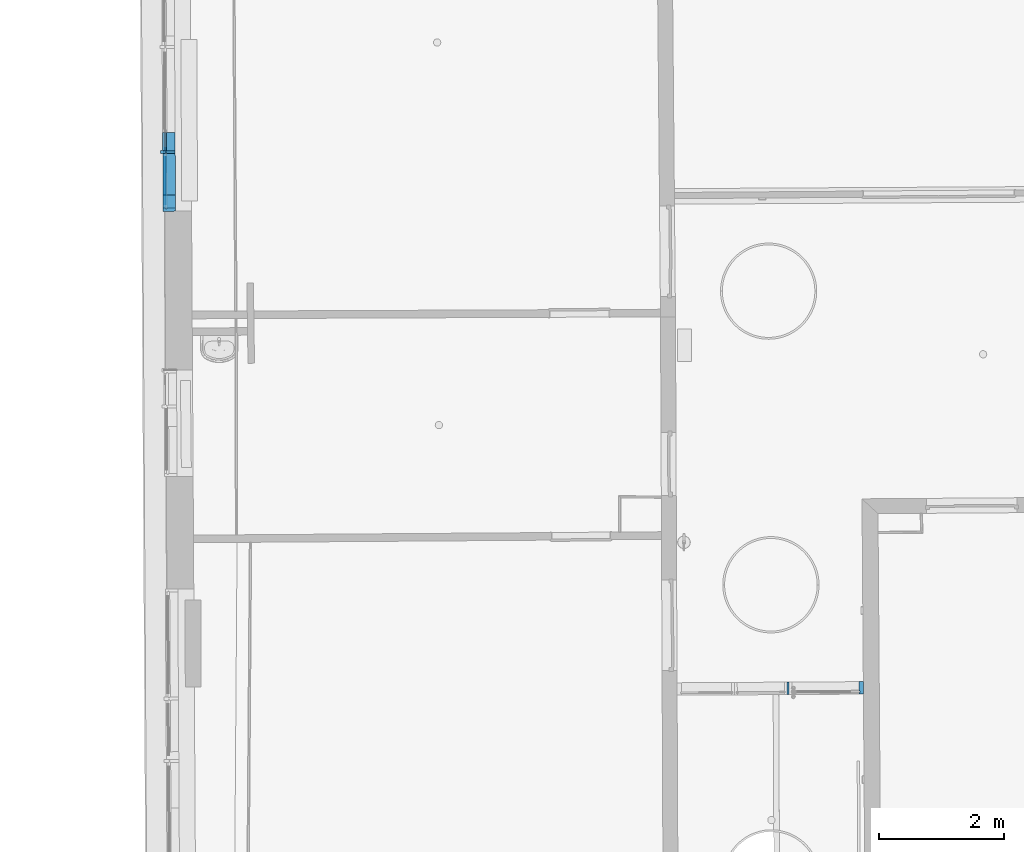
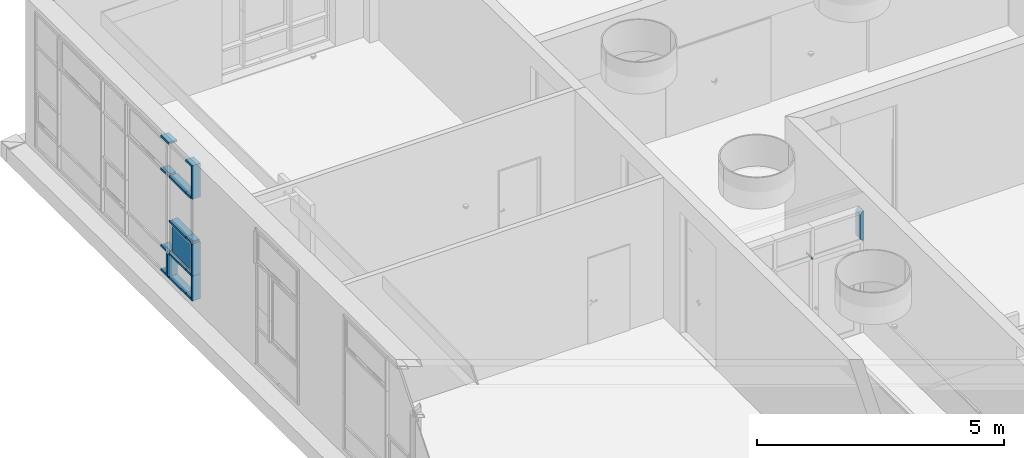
# One storey, part 124 of 158: 20 building element parts, 2 elements without a shape of their own.
"""IFC2X3 building model written with IfcOpenShell, lengths in metres."""

from ifc_helpers import new_model, entity, si_unit, converted_unit, derived_unit, money_unit, direction, frame, origin_with_axes, place, context, subcontext, project, spatial, faceted_brep, material, type_object, element, aggregate, save


model = new_model("IFC2X3")

# Units and contexts
model_context = context("Model", 3, precision=1e-05, world=origin_with_axes(), true_north=direction((0.0, 1.0)))
body_context = subcontext(model_context, "Body", "Model", "MODEL_VIEW")
ifc_project = project(units=[si_unit("LENGTHUNIT", "METRE"), si_unit("AREAUNIT", "SQUARE_METRE"), si_unit("VOLUMEUNIT", "CUBIC_METRE"), converted_unit("PLANEANGLEUNIT", "DEGREE", entity("IfcPlaneAngleMeasure", 0.0174532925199), si_unit("PLANEANGLEUNIT", "RADIAN"), dimensions=[0, 0, 0, 0, 0, 0, 0]), money_unit("EUR"), converted_unit("TIMEUNIT", "Year", entity("IfcTimeMeasure", 31556926.0), si_unit("TIMEUNIT", "SECOND"), dimensions=[0, 0, 1, 0, 0, 0, 0]), si_unit("MASSUNIT", "GRAM", prefix="KILO"), si_unit("THERMODYNAMICTEMPERATUREUNIT", "DEGREE_CELSIUS"), si_unit("LUMINOUSINTENSITYUNIT", "LUMEN"), si_unit("ENERGYUNIT", "JOULE", prefix="MEGA"), derived_unit("THERMALCONDUCTANCEUNIT", [(si_unit("POWERUNIT", "WATT"), 1), (si_unit("LENGTHUNIT", "METRE"), -1), (si_unit("THERMODYNAMICTEMPERATUREUNIT", "KELVIN"), -1)]), derived_unit("SPECIFICHEATCAPACITYUNIT", [(si_unit("ENERGYUNIT", "JOULE"), 1), (si_unit("MASSUNIT", "GRAM", prefix="KILO"), -1), (si_unit("THERMODYNAMICTEMPERATUREUNIT", "KELVIN"), -1)]), derived_unit("MASSDENSITYUNIT", [(si_unit("MASSUNIT", "GRAM", prefix="KILO"), 1), (si_unit("VOLUMEUNIT", "CUBIC_METRE"), -1)])], contexts=[model_context])

# Site, building, storey
site_placement = place(None, origin_with_axes())
site = spatial("IfcSite", under=ifc_project, at=site_placement, Name="Gelände", CompositionType="ELEMENT")
building_placement = place(site_placement, origin_with_axes())
building = spatial("IfcBuilding", under=site, at=building_placement, Name="Gebäude", CompositionType="ELEMENT")
storey_placement = place(building_placement, origin_with_axes())
storey = spatial("IfcBuildingStorey", under=building, at=storey_placement, Name="ERDGESCHOSS", CompositionType="ELEMENT", Elevation=0.0)

# Proxy, building element parts
building_element_proxy_type = type_object("IfcBuildingElementProxyType", Name="Fassadentyp", PredefinedType="NOTDEFINED")
proxy_1_placement = place(storey_placement, frame((-24.5086107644, 39.472840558, 1.345), z_axis=(0.0, 0.0, 1.0), x_axis=(1.0, 0.0, 0.0)))
proxy_1 = element("IfcBuildingElementProxy", 1, at=proxy_1_placement, inside=storey, type_object=building_element_proxy_type, Name="Fassade-002")
ifc_material_1 = material(Name="53_Metall, Aluminium")
building_element_part_1_placement = place(proxy_1_placement, origin_with_axes())
building_element_part_1 = element("IfcBuildingElementPart", 2, at=building_element_part_1_placement, material=ifc_material_1, Name="53_Metall, Aluminium", context=body_context, shape_type="Brep", body=[
    faceted_brep([(0.751821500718, -0.0053760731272, 2.95000001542), (0.73682178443, -0.00546832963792, 2.93500001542), (0.737006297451, -0.035467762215, 2.93500001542), (0.807004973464, -0.0350372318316, 3.00500001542), (0.805774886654, 0.164958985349, 3.00500001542), (0.735776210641, 0.164528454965, 2.93500001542), (0.736698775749, 0.0145312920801, 2.93500001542), (0.751698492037, 0.0146235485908, 2.95000001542), (0.751821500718, -0.0053760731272, 2.30003278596), (0.73682178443, -0.00546832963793, 2.31074707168), (0.737006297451, -0.035467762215, 2.31074707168), (0.807004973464, -0.0350372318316, 2.26074707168), (0.805774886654, 0.164958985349, 2.26074707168), (0.735776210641, 0.164528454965, 2.31074707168), (0.736698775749, 0.0145312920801, 2.31074707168), (0.751698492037, 0.0146235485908, 2.30003278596)], [[[0, 1, 2, 3, 4, 5, 6, 7]], [[0, 8, 9, 1]], [[9, 10, 2, 1]], [[10, 11, 3, 2]], [[11, 12, 4, 3]], [[12, 13, 5, 4]], [[6, 5, 13, 14]], [[14, 15, 7, 6]], [[7, 15, 8, 0]], [[8, 15, 14, 13, 12, 11, 10, 9]]]),
])
building_element_part_2_placement = place(proxy_1_placement, origin_with_axes())
building_element_part_2 = element("IfcBuildingElementPart", 3, at=building_element_part_2_placement, material=ifc_material_1, Name="53_Metall, Aluminium", context=body_context, shape_type="Brep", body=[
    faceted_brep([(-0.397632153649, -0.0124458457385, 2.22574707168), (-0.387132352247, -0.012381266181, 2.21074707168), (-0.386947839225, -0.0423806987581, 2.21074707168), (-0.421947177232, -0.0425959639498, 2.26074707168), (-0.423177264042, 0.157400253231, 2.26074707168), (-0.388177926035, 0.157615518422, 2.21074707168), (-0.387255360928, 0.00761835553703, 2.21074707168), (-0.39775516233, 0.00755377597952, 2.22574707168), (-0.384504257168, -0.0123651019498, 2.22574707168), (-0.384504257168, -0.0123651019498, 2.21074707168), (-0.384319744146, -0.0423645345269, 2.21074707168), (-0.384319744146, -0.0423645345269, 2.26074707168), (-0.421947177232, -0.0425959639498, 2.30255612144), (-0.422131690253, -0.0125965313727, 2.30255612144), (-0.422131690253, -0.0125965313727, 2.29574707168), (-0.422254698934, 0.00740309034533, 2.29574707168), (-0.422254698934, 0.00740309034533, 2.30255612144), (-0.423177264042, 0.157400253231, 2.30255612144), (-0.385549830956, 0.157631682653, 2.26074707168), (-0.385549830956, 0.157631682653, 2.21074707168), (-0.384627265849, 0.00763451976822, 2.21074707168), (-0.384627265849, 0.00763451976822, 2.22574707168), (-0.416126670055, 0.00744078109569, 2.29574707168), (-0.416003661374, -0.0125588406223, 2.29574707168)], [[[0, 1, 2, 3, 4, 5, 6, 7]], [[1, 0, 8, 9]], [[1, 9, 10, 2]], [[10, 11, 12, 3, 2]], [[3, 12, 13, 14, 15, 16, 17, 4]], [[4, 17, 18, 19, 5]], [[20, 6, 5, 19]], [[7, 6, 20, 21]], [[0, 7, 21, 8]], [[21, 20, 19, 18, 11, 10, 9, 8]], [[17, 16, 22, 23, 13, 12, 11, 18]], [[14, 13, 23]], [[14, 23, 22, 15]], [[22, 16, 15]]]),
])
aggregate(proxy_1, [building_element_part_1, building_element_part_2])

proxy_2_placement = place(storey_placement, frame((-34.889376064, 47.589579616, 1.34043902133), z_axis=(0.0, 0.0, 1.0), x_axis=(1.0, 0.0, 0.0)))
proxy_2 = element("IfcBuildingElementProxy", 4, at=proxy_2_placement, inside=storey, type_object=building_element_proxy_type, Name="Fassade-002")
ifc_material_2 = material(Name="45_Glas, Normalglas")
building_element_part_3_placement = place(proxy_2_placement, origin_with_axes())
building_element_part_3 = element("IfcBuildingElementPart", 5, at=building_element_part_3_placement, material=ifc_material_2, Name="45_Glas, Normalglas", context=body_context, shape_type="Brep", body=[
    faceted_brep([(-0.0226830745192, 0.457427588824, 0.710000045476), (-0.00668334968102, 0.457521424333, 0.710000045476), (-0.0022934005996, -0.291000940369, 0.710000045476), (-0.0182931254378, -0.291094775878, 0.710000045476), (-0.0226830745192, 0.457427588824, 1.33000004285), (-0.00668334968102, 0.457521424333, 1.33000004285), (-0.0022934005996, -0.291000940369, 1.33000004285), (-0.0182931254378, -0.291094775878, 1.33000004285)], [[[0, 1, 2, 3]], [[4, 5, 1, 0]], [[1, 5, 6, 2]], [[3, 2, 6, 7]], [[0, 3, 7, 4]], [[7, 6, 5, 4]]]),
])
building_element_part_4_placement = place(proxy_2_placement, origin_with_axes())
building_element_part_4 = element("IfcBuildingElementPart", 6, at=building_element_part_4_placement, material=ifc_material_1, Name="53_Metall, Aluminium", context=body_context, shape_type="Brep", body=[
    faceted_brep([(0.0121755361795, -0.370917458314, 0.620000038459), (-0.00782411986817, -0.371034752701, 0.620000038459), (-0.00791209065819, -0.356035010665, 0.620000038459), (-0.0479114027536, -0.356269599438, 0.620000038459), (-0.0476181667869, -0.406268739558, 0.620000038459), (0.15237839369, -0.405095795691, 0.620000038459), (0.152085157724, -0.355096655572, 0.620000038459), (0.0120875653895, -0.355917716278, 0.620000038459), (0.0121755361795, -0.370917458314, 0.035), (-0.00782411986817, -0.371034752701, 0.035), (-0.00791209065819, -0.356035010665, 0.05), (-0.0479114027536, -0.356269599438, 0.05), (-0.0476181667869, -0.406268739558, 0.0), (0.15237839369, -0.405095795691, 0.0), (0.152085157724, -0.355096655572, 0.05), (0.0120875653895, -0.355917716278, 0.05)], [[[0, 1, 2, 3, 4, 5, 6, 7]], [[1, 0, 8, 9]], [[10, 2, 1, 9]], [[2, 10, 11, 3]], [[4, 3, 11, 12]], [[5, 4, 12, 13]], [[6, 5, 13, 14]], [[15, 7, 6, 14]], [[0, 7, 15, 8]], [[8, 15, 14, 13, 12, 11, 10, 9]]]),
])
building_element_part_5_placement = place(proxy_2_placement, origin_with_axes())
building_element_part_5 = element("IfcBuildingElementPart", 7, at=building_element_part_5_placement, material=ifc_material_1, Name="53_Metall, Aluminium", context=body_context, shape_type="Brep", body=[
    faceted_brep([(0.0121755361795, -0.370917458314, 0.035), (-0.00782411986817, -0.371034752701, 0.035), (-0.00791209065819, -0.356035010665, 0.05), (-0.0479114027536, -0.356269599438, 0.05), (-0.0476181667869, -0.406268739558, 0.0), (0.15237839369, -0.405095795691, 0.0), (0.152085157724, -0.355096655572, 0.05), (0.0120875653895, -0.355917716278, 0.05), (0.010830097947, -0.141509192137, 0.035), (-0.00916955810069, -0.141626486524, 0.035), (-0.00916955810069, -0.141626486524, 0.05), (-0.0491688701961, -0.141861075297, 0.05), (-0.0491688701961, -0.141861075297, 0.0), (0.150827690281, -0.140688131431, 0.0), (0.150827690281, -0.140688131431, 0.05), (0.010830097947, -0.141509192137, 0.05)], [[[0, 1, 2, 3, 4, 5, 6, 7]], [[1, 0, 8, 9]], [[10, 2, 1, 9]], [[2, 10, 11, 3]], [[12, 4, 3, 11]], [[13, 5, 4, 12]], [[14, 6, 5, 13]], [[15, 7, 6, 14]], [[0, 7, 15, 8]], [[8, 15, 14, 13, 12, 11, 10, 9]]]),
])
building_element_part_6_placement = place(proxy_2_placement, origin_with_axes())
building_element_part_6 = element("IfcBuildingElementPart", 8, at=building_element_part_6_placement, material=ifc_material_1, Name="53_Metall, Aluminium", context=body_context, shape_type="Brep", body=[
    faceted_brep([(0.010830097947, -0.141509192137, 0.035), (-0.00916955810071, -0.141626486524, 0.035), (-0.00916955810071, -0.141626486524, 0.05), (-0.0491688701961, -0.141861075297, 0.05), (-0.0491688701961, -0.141861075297, 0.0), (0.150827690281, -0.140688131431, 0.0), (0.150827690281, -0.140688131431, 0.05), (0.010830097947, -0.141509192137, 0.05), (0.00678858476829, 0.547601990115, 0.035), (-0.0132110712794, 0.547484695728, 0.035), (-0.0132110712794, 0.547484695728, 0.05), (-0.0532103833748, 0.547250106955, 0.05), (-0.0532103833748, 0.547250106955, 0.0), (0.146786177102, 0.548423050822, 0.0), (0.146786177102, 0.548423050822, 0.05), (0.00678858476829, 0.547601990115, 0.05)], [[[0, 1, 2, 3, 4, 5, 6, 7]], [[1, 0, 8, 9]], [[10, 2, 1, 9]], [[2, 10, 11, 3]], [[12, 4, 3, 11]], [[13, 5, 4, 12]], [[14, 6, 5, 13]], [[15, 7, 6, 14]], [[0, 7, 15, 8]], [[8, 15, 14, 13, 12, 11, 10, 9]]]),
])
building_element_part_7_placement = place(proxy_2_placement, origin_with_axes())
building_element_part_7 = element("IfcBuildingElementPart", 9, at=building_element_part_7_placement, material=ifc_material_1, Name="53_Metall, Aluminium", context=body_context, shape_type="Brep", body=[
    faceted_brep([(0.00678858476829, 0.547601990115, 0.035), (-0.0132110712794, 0.547484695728, 0.035), (-0.0132110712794, 0.547484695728, 0.05), (-0.0532103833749, 0.547250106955, 0.05), (-0.0532103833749, 0.547250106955, 0.0), (0.146786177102, 0.548423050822, 0.0), (0.146786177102, 0.548423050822, 0.05), (0.00678858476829, 0.547601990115, 0.05), (0.00496537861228, 0.858473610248, 0.035), (-0.0150342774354, 0.858356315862, 0.035), (-0.0150342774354, 0.858356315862, 0.05), (-0.0550335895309, 0.858121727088, 0.05), (-0.0550335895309, 0.858121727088, 0.0), (0.144962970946, 0.859294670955, 0.0), (0.144962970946, 0.859294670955, 0.05), (0.00496537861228, 0.858473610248, 0.05)], [[[0, 1, 2, 3, 4, 5, 6, 7]], [[1, 0, 8, 9]], [[10, 2, 1, 9]], [[2, 10, 11, 3]], [[12, 4, 3, 11]], [[13, 5, 4, 12]], [[14, 6, 5, 13]], [[15, 7, 6, 14]], [[0, 7, 15, 8]], [[8, 15, 14, 13, 12, 11, 10, 9]]]),
])
building_element_part_8_placement = place(proxy_2_placement, origin_with_axes())
building_element_part_8 = element("IfcBuildingElementPart", 10, at=building_element_part_8_placement, material=ifc_material_1, Name="53_Metall, Aluminium", context=body_context, shape_type="Brep", body=[
    faceted_brep([(0.0066419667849, 0.572601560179, 2.51000003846), (0.0066419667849, 0.572601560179, 2.49500003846), (0.146639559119, 0.573422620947, 2.49500003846), (0.146639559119, 0.573422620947, 2.54500003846), (0.0066419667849, 0.572601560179, 2.54500003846), (0.0066419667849, 0.572601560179, 2.53000003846), (-0.0133576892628, 0.572484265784, 2.53000003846), (-0.0133576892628, 0.572484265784, 2.54500003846), (-0.0533570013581, 0.572249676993, 2.54500003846), (-0.0533570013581, 0.572249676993, 2.49500003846), (-0.0133576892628, 0.572484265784, 2.49500003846), (-0.0133576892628, 0.572484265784, 2.51000003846), (0.00496537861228, 0.858473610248, 2.51000003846), (0.00496537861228, 0.858473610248, 2.49500003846), (0.144962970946, 0.859294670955, 2.49500003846), (0.144962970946, 0.859294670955, 2.54500003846), (0.00496537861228, 0.858473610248, 2.54500003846), (0.00496537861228, 0.858473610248, 2.53000003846), (-0.0150342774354, 0.858356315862, 2.53000003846), (-0.0150342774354, 0.858356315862, 2.54500003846), (-0.0550335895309, 0.858121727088, 2.54500003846), (-0.0550335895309, 0.858121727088, 2.49500003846), (-0.0150342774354, 0.858356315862, 2.49500003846), (-0.0150342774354, 0.858356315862, 2.51000003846)], [[[0, 1, 2, 3, 4, 5, 6, 7, 8, 9, 10, 11]], [[1, 0, 12, 13]], [[1, 13, 14, 2]], [[3, 2, 14, 15]], [[4, 3, 15, 16]], [[4, 16, 17, 5]], [[5, 17, 18, 6]], [[7, 6, 18, 19]], [[19, 20, 8, 7]], [[9, 8, 20, 21]], [[22, 10, 9, 21]], [[11, 10, 22, 23]], [[0, 11, 23, 12]], [[23, 22, 21, 20, 19, 18, 17, 16, 15, 14, 13, 12]]]),
])
building_element_part_9_placement = place(proxy_2_placement, origin_with_axes())
building_element_part_9 = element("IfcBuildingElementPart", 11, at=building_element_part_9_placement, material=ifc_material_1, Name="53_Metall, Aluminium", context=body_context, shape_type="Brep", body=[
    faceted_brep([(0.010830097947, -0.141509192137, 0.610000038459), (0.010830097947, -0.141509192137, 0.595000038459), (0.150827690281, -0.140688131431, 0.595000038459), (0.150827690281, -0.140688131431, 0.645000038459), (0.010830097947, -0.141509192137, 0.645000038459), (0.010830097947, -0.141509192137, 0.630000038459), (-0.00916955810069, -0.141626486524, 0.630000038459), (-0.00916955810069, -0.141626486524, 0.645000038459), (-0.0491688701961, -0.141861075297, 0.645000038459), (-0.0491688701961, -0.141861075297, 0.595000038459), (-0.00916955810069, -0.141626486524, 0.595000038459), (-0.00916955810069, -0.141626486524, 0.610000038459), (0.00693520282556, 0.522602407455, 0.610000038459), (0.00693520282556, 0.522602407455, 0.595000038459), (0.146932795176, 0.523423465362, 0.595000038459), (0.146932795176, 0.523423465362, 0.645000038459), (0.00693520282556, 0.522602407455, 0.645000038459), (0.00693520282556, 0.522602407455, 0.630000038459), (-0.0130644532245, 0.522485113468, 0.630000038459), (-0.0130644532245, 0.522485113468, 0.645000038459), (-0.0530637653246, 0.522250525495, 0.645000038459), (-0.0530637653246, 0.522250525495, 0.595000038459), (-0.0130644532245, 0.522485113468, 0.595000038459), (-0.0130644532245, 0.522485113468, 0.610000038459)], [[[0, 1, 2, 3, 4, 5, 6, 7, 8, 9, 10, 11]], [[1, 0, 12, 13]], [[1, 13, 14, 2]], [[2, 14, 15, 3]], [[4, 3, 15, 16]], [[4, 16, 17, 5]], [[5, 17, 18, 6]], [[7, 6, 18, 19]], [[19, 20, 8, 7]], [[8, 20, 21, 9]], [[22, 10, 9, 21]], [[11, 10, 22, 23]], [[0, 11, 23, 12]], [[23, 22, 21, 20, 19, 18, 17, 16, 15, 14, 13, 12]]]),
])
building_element_part_10_placement = place(proxy_2_placement, origin_with_axes())
building_element_part_10 = element("IfcBuildingElementPart", 12, at=building_element_part_10_placement, material=ifc_material_1, Name="53_Metall, Aluminium", context=body_context, shape_type="Brep", body=[
    faceted_brep([(0.00684723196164, 0.537602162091, 0.620000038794), (0.00693520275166, 0.522602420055, 0.620000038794), (0.146932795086, 0.523423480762, 0.620000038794), (0.146639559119, 0.573422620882, 0.620000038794), (0.00664196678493, 0.572601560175, 0.620000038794), (0.00672993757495, 0.557601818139, 0.620000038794), (-0.0132697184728, 0.557484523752, 0.620000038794), (-0.0133576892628, 0.572484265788, 0.620000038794), (-0.0883563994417, 0.572044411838, 0.620000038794), (-0.088063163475, 0.522045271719, 0.620000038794), (-0.0130644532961, 0.522485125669, 0.620000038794), (-0.0131524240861, 0.537484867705, 0.620000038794), (0.00684723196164, 0.537602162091, 0.0500000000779), (0.00693520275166, 0.522602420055, 0.0500000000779), (0.146932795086, 0.523423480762, 0.0500000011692), (0.146639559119, 0.573422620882, 0.0500000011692), (0.00664196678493, 0.572601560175, 0.0500000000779), (0.00672993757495, 0.557601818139, 0.0500000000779), (-0.0132697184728, 0.557484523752, 0.0499999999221), (-0.0133576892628, 0.572484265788, 0.0499999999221), (-0.0883563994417, 0.572044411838, 0.0499999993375), (-0.088063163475, 0.522045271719, 0.0499999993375), (-0.0130644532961, 0.522485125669, 0.0499999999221), (-0.0131524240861, 0.537484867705, 0.0499999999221)], [[[0, 1, 2, 3, 4, 5, 6, 7, 8, 9, 10, 11]], [[1, 0, 12, 13]], [[1, 13, 14, 2]], [[2, 14, 15, 3]], [[4, 3, 15, 16]], [[4, 16, 17, 5]], [[5, 17, 18, 6]], [[7, 6, 18, 19]], [[19, 20, 8, 7]], [[8, 20, 21, 9]], [[22, 10, 9, 21]], [[11, 10, 22, 23]], [[0, 11, 23, 12]], [[23, 22, 21, 20, 19, 18, 17, 16, 15, 14, 13, 12]]]),
])
building_element_part_11_placement = place(proxy_2_placement, origin_with_axes())
building_element_part_11 = element("IfcBuildingElementPart", 13, at=building_element_part_11_placement, material=ifc_material_1, Name="53_Metall, Aluminium", context=body_context, shape_type="Brep", body=[
    faceted_brep([(0.0120875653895, -0.355917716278, 0.610000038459), (0.0120875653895, -0.355917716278, 0.595000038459), (0.152085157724, -0.355096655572, 0.595000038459), (0.152085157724, -0.355096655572, 0.645000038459), (0.0120875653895, -0.355917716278, 0.645000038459), (0.0120875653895, -0.355917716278, 0.630000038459), (-0.00791209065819, -0.356035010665, 0.630000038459), (-0.00791209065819, -0.356035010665, 0.645000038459), (-0.0479114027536, -0.356269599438, 0.645000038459), (-0.0479114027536, -0.356269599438, 0.595000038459), (-0.00791209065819, -0.356035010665, 0.595000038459), (-0.00791209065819, -0.356035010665, 0.610000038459), (0.010830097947, -0.141509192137, 0.610000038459), (0.010830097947, -0.141509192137, 0.595000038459), (0.150827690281, -0.140688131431, 0.595000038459), (0.150827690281, -0.140688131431, 0.645000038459), (0.010830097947, -0.141509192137, 0.645000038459), (0.010830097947, -0.141509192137, 0.630000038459), (-0.00916955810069, -0.141626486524, 0.630000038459), (-0.00916955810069, -0.141626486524, 0.645000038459), (-0.0491688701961, -0.141861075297, 0.645000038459), (-0.0491688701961, -0.141861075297, 0.595000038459), (-0.00916955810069, -0.141626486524, 0.595000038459), (-0.00916955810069, -0.141626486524, 0.610000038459)], [[[0, 1, 2, 3, 4, 5, 6, 7, 8, 9, 10, 11]], [[1, 0, 12, 13]], [[1, 13, 14, 2]], [[3, 2, 14, 15]], [[4, 3, 15, 16]], [[4, 16, 17, 5]], [[5, 17, 18, 6]], [[7, 6, 18, 19]], [[19, 20, 8, 7]], [[9, 8, 20, 21]], [[22, 10, 9, 21]], [[11, 10, 22, 23]], [[0, 11, 23, 12]], [[23, 22, 21, 20, 19, 18, 17, 16, 15, 14, 13, 12]]]),
])
building_element_part_12_placement = place(proxy_2_placement, origin_with_axes())
building_element_part_12 = element("IfcBuildingElementPart", 14, at=building_element_part_12_placement, material=ifc_material_1, Name="53_Metall, Aluminium", context=body_context, shape_type="Brep", body=[
    faceted_brep([(0.0121755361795, -0.370917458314, 1.42000003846), (-0.00782411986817, -0.371034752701, 1.42000003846), (-0.00791209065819, -0.356035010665, 1.42000003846), (-0.0479114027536, -0.356269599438, 1.42000003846), (-0.0476181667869, -0.406268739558, 1.42000003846), (0.15237839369, -0.405095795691, 1.42000003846), (0.152085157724, -0.355096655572, 1.42000003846), (0.0120875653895, -0.355917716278, 1.42000003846), (0.0121755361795, -0.370917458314, 0.620000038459), (-0.00782411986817, -0.371034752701, 0.620000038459), (-0.00791209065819, -0.356035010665, 0.620000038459), (-0.0479114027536, -0.356269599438, 0.620000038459), (-0.0476181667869, -0.406268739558, 0.620000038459), (0.15237839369, -0.405095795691, 0.620000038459), (0.152085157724, -0.355096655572, 0.620000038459), (0.0120875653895, -0.355917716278, 0.620000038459)], [[[0, 1, 2, 3, 4, 5, 6, 7]], [[1, 0, 8, 9]], [[10, 2, 1, 9]], [[2, 10, 11, 3]], [[12, 4, 3, 11]], [[13, 5, 4, 12]], [[14, 6, 5, 13]], [[15, 7, 6, 14]], [[0, 7, 15, 8]], [[8, 15, 14, 13, 12, 11, 10, 9]]]),
])
building_element_part_13_placement = place(proxy_2_placement, origin_with_axes())
building_element_part_13 = element("IfcBuildingElementPart", 15, at=building_element_part_13_placement, material=ifc_material_1, Name="53_Metall, Aluminium", context=body_context, shape_type="Brep", body=[
    faceted_brep([(0.00678858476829, 0.547601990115, 3.31499990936), (0.00678858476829, 0.547601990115, 3.29999990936), (0.146786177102, 0.548423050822, 3.29999990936), (0.146786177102, 0.548423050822, 3.34999990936), (-0.0532103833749, 0.547250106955, 3.34999990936), (-0.0532103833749, 0.547250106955, 3.29999990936), (-0.0132110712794, 0.547484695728, 3.29999990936), (-0.0132110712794, 0.547484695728, 3.31499990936), (0.00496537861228, 0.858473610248, 3.31499990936), (0.00496537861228, 0.858473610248, 3.29999990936), (0.144962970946, 0.859294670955, 3.29999990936), (0.144962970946, 0.859294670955, 3.34999990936), (-0.0550335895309, 0.858121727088, 3.34999990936), (-0.0550335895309, 0.858121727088, 3.29999990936), (-0.0150342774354, 0.858356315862, 3.29999990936), (-0.0150342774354, 0.858356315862, 3.31499990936)], [[[0, 1, 2, 3, 4, 5, 6, 7]], [[0, 8, 9, 1]], [[9, 10, 2, 1]], [[10, 11, 3, 2]], [[11, 12, 4, 3]], [[12, 13, 5, 4]], [[6, 5, 13, 14]], [[14, 15, 7, 6]], [[7, 15, 8, 0]], [[8, 15, 14, 13, 12, 11, 10, 9]]]),
])
building_element_part_14_placement = place(proxy_2_placement, origin_with_axes())
building_element_part_14 = element("IfcBuildingElementPart", 16, at=building_element_part_14_placement, material=ifc_material_1, Name="53_Metall, Aluminium", context=body_context, shape_type="Brep", body=[
    faceted_brep([(0.0108300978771, -0.141509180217, 1.41000003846), (0.0108300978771, -0.141509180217, 1.39500003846), (0.150827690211, -0.14068811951, 1.39500003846), (0.150827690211, -0.14068811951, 1.44500003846), (0.0108300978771, -0.141509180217, 1.44500003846), (0.0108300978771, -0.141509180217, 1.43000003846), (-0.0091695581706, -0.141626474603, 1.43000003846), (-0.0091695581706, -0.141626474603, 1.44500003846), (-0.049168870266, -0.141861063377, 1.44500003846), (-0.049168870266, -0.141861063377, 1.39500003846), (-0.0091695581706, -0.141626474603, 1.39500003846), (-0.0091695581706, -0.141626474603, 1.41000003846), (0.00693520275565, 0.522602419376, 1.41000003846), (0.00693520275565, 0.522602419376, 1.39500003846), (0.146932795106, 0.523423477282, 1.39500003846), (0.146932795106, 0.523423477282, 1.44500003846), (0.00693520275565, 0.522602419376, 1.44500003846), (0.00693520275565, 0.522602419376, 1.43000003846), (-0.0130644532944, 0.522485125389, 1.43000003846), (-0.0130644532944, 0.522485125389, 1.44500003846), (-0.0530637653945, 0.522250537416, 1.44500003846), (-0.0530637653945, 0.522250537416, 1.39500003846), (-0.0130644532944, 0.522485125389, 1.39500003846), (-0.0130644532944, 0.522485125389, 1.41000003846)], [[[0, 1, 2, 3, 4, 5, 6, 7, 8, 9, 10, 11]], [[1, 0, 12, 13]], [[1, 13, 14, 2]], [[2, 14, 15, 3]], [[4, 3, 15, 16]], [[4, 16, 17, 5]], [[5, 17, 18, 6]], [[7, 6, 18, 19]], [[19, 20, 8, 7]], [[8, 20, 21, 9]], [[22, 10, 9, 21]], [[11, 10, 22, 23]], [[0, 11, 23, 12]], [[23, 22, 21, 20, 19, 18, 17, 16, 15, 14, 13, 12]]]),
])
building_element_part_15_placement = place(proxy_2_placement, origin_with_axes())
building_element_part_15 = element("IfcBuildingElementPart", 17, at=building_element_part_15_placement, material=ifc_material_1, Name="53_Metall, Aluminium", context=body_context, shape_type="Brep", body=[
    faceted_brep([(0.0066419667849, 0.572601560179, 0.610000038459), (0.0066419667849, 0.572601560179, 0.595000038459), (0.146639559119, 0.573422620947, 0.595000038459), (0.146639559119, 0.573422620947, 0.645000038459), (0.0066419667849, 0.572601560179, 0.645000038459), (0.0066419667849, 0.572601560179, 0.630000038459), (-0.0133576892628, 0.572484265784, 0.630000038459), (-0.0133576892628, 0.572484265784, 0.645000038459), (-0.0533570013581, 0.572249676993, 0.645000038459), (-0.0533570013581, 0.572249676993, 0.595000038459), (-0.0133576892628, 0.572484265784, 0.595000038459), (-0.0133576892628, 0.572484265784, 0.610000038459), (0.00496537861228, 0.858473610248, 0.610000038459), (0.00496537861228, 0.858473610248, 0.595000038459), (0.144962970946, 0.859294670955, 0.595000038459), (0.144962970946, 0.859294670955, 0.645000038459), (0.00496537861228, 0.858473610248, 0.645000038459), (0.00496537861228, 0.858473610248, 0.630000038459), (-0.0150342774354, 0.858356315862, 0.630000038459), (-0.0150342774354, 0.858356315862, 0.645000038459), (-0.0550335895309, 0.858121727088, 0.645000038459), (-0.0550335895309, 0.858121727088, 0.595000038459), (-0.0150342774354, 0.858356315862, 0.595000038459), (-0.0150342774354, 0.858356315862, 0.610000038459)], [[[0, 1, 2, 3, 4, 5, 6, 7, 8, 9, 10, 11]], [[1, 0, 12, 13]], [[1, 13, 14, 2]], [[3, 2, 14, 15]], [[4, 3, 15, 16]], [[4, 16, 17, 5]], [[5, 17, 18, 6]], [[7, 6, 18, 19]], [[19, 20, 8, 7]], [[9, 8, 20, 21]], [[22, 10, 9, 21]], [[11, 10, 22, 23]], [[0, 11, 23, 12]], [[23, 22, 21, 20, 19, 18, 17, 16, 15, 14, 13, 12]]]),
])
building_element_part_16_placement = place(proxy_2_placement, origin_with_axes())
building_element_part_16 = element("IfcBuildingElementPart", 18, at=building_element_part_16_placement, material=ifc_material_1, Name="53_Metall, Aluminium", context=body_context, shape_type="Brep", body=[
    faceted_brep([(0.0108300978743, -0.141509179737, 2.51000003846), (0.0108300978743, -0.141509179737, 2.49500003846), (0.150827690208, -0.14068811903, 2.49500003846), (0.150827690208, -0.14068811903, 2.54500003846), (0.0108300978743, -0.141509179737, 2.54500003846), (0.0108300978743, -0.141509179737, 2.53000003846), (-0.00916955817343, -0.141626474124, 2.53000003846), (-0.00916955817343, -0.141626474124, 2.54500003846), (-0.0491688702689, -0.141861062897, 2.54500003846), (-0.0491688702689, -0.141861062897, 2.49500003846), (-0.00916955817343, -0.141626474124, 2.49500003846), (-0.00916955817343, -0.141626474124, 2.51000003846), (0.00693520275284, 0.522602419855, 2.51000003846), (0.00693520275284, 0.522602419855, 2.49500003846), (0.146932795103, 0.523423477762, 2.49500003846), (0.146932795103, 0.523423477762, 2.54500003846), (0.00693520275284, 0.522602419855, 2.54500003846), (0.00693520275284, 0.522602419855, 2.53000003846), (-0.0130644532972, 0.522485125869, 2.53000003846), (-0.0130644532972, 0.522485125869, 2.54500003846), (-0.0530637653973, 0.522250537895, 2.54500003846), (-0.0530637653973, 0.522250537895, 2.49500003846), (-0.0130644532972, 0.522485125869, 2.49500003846), (-0.0130644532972, 0.522485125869, 2.51000003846)], [[[0, 1, 2, 3, 4, 5, 6, 7, 8, 9, 10, 11]], [[1, 0, 12, 13]], [[1, 13, 14, 2]], [[2, 14, 15, 3]], [[4, 3, 15, 16]], [[4, 16, 17, 5]], [[5, 17, 18, 6]], [[7, 6, 18, 19]], [[19, 20, 8, 7]], [[8, 20, 21, 9]], [[22, 10, 9, 21]], [[11, 10, 22, 23]], [[0, 11, 23, 12]], [[23, 22, 21, 20, 19, 18, 17, 16, 15, 14, 13, 12]]]),
])
building_element_part_17_placement = place(proxy_2_placement, origin_with_axes())
building_element_part_17 = element("IfcBuildingElementPart", 19, at=building_element_part_17_placement, material=ifc_material_1, Name="53_Metall, Aluminium", context=body_context, shape_type="Brep", body=[
    faceted_brep([(0.0120875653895, -0.355917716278, 1.41000003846), (0.0120875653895, -0.355917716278, 1.39500003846), (0.152085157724, -0.355096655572, 1.39500003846), (0.152085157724, -0.355096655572, 1.44500003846), (0.0120875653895, -0.355917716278, 1.44500003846), (0.0120875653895, -0.355917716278, 1.43000003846), (-0.00791209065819, -0.356035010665, 1.43000003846), (-0.00791209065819, -0.356035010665, 1.44500003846), (-0.0479114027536, -0.356269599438, 1.44500003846), (-0.0479114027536, -0.356269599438, 1.39500003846), (-0.00791209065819, -0.356035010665, 1.39500003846), (-0.00791209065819, -0.356035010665, 1.41000003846), (0.010830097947, -0.141509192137, 1.41000003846), (0.010830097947, -0.141509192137, 1.39500003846), (0.150827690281, -0.140688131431, 1.39500003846), (0.150827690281, -0.140688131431, 1.44500003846), (0.010830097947, -0.141509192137, 1.44500003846), (0.010830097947, -0.141509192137, 1.43000003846), (-0.00916955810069, -0.141626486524, 1.43000003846), (-0.00916955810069, -0.141626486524, 1.44500003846), (-0.0491688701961, -0.141861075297, 1.44500003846), (-0.0491688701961, -0.141861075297, 1.39500003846), (-0.00916955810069, -0.141626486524, 1.39500003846), (-0.00916955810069, -0.141626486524, 1.41000003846)], [[[0, 1, 2, 3, 4, 5, 6, 7, 8, 9, 10, 11]], [[1, 0, 12, 13]], [[1, 13, 14, 2]], [[3, 2, 14, 15]], [[4, 3, 15, 16]], [[4, 16, 17, 5]], [[5, 17, 18, 6]], [[7, 6, 18, 19]], [[19, 20, 8, 7]], [[9, 8, 20, 21]], [[22, 10, 9, 21]], [[11, 10, 22, 23]], [[0, 11, 23, 12]], [[23, 22, 21, 20, 19, 18, 17, 16, 15, 14, 13, 12]]]),
])
building_element_part_18_placement = place(proxy_2_placement, origin_with_axes())
building_element_part_18 = element("IfcBuildingElementPart", 20, at=building_element_part_18_placement, material=ifc_material_1, Name="53_Metall, Aluminium", context=body_context, shape_type="Brep", body=[
    faceted_brep([(0.0121755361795, -0.370917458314, 3.31499990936), (0.0120875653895, -0.355917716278, 3.29999990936), (0.152085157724, -0.355096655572, 3.29999990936), (0.15237839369, -0.405095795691, 3.34999990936), (-0.0476181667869, -0.406268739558, 3.34999990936), (-0.0479114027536, -0.356269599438, 3.29999990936), (-0.00791209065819, -0.356035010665, 3.29999990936), (-0.00782411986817, -0.371034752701, 3.31499990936), (0.010830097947, -0.141509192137, 3.31499990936), (0.010830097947, -0.141509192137, 3.29999990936), (0.150827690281, -0.140688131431, 3.29999990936), (0.150827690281, -0.140688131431, 3.34999990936), (-0.0491688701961, -0.141861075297, 3.34999990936), (-0.0491688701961, -0.141861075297, 3.29999990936), (-0.00916955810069, -0.141626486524, 3.29999990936), (-0.00916955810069, -0.141626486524, 3.31499990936)], [[[0, 1, 2, 3, 4, 5, 6, 7]], [[0, 8, 9, 1]], [[9, 10, 2, 1]], [[10, 11, 3, 2]], [[11, 12, 4, 3]], [[12, 13, 5, 4]], [[6, 5, 13, 14]], [[14, 15, 7, 6]], [[7, 15, 8, 0]], [[8, 15, 14, 13, 12, 11, 10, 9]]]),
])
building_element_part_19_placement = place(proxy_2_placement, origin_with_axes())
building_element_part_19 = element("IfcBuildingElementPart", 21, at=building_element_part_19_placement, material=ifc_material_1, Name="53_Metall, Aluminium", context=body_context, shape_type="Brep", body=[
    faceted_brep([(0.0121755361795, -0.370917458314, 3.31499995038), (-0.00782411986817, -0.371034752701, 3.31499995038), (-0.00791209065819, -0.356035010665, 3.29999995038), (-0.0479114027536, -0.356269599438, 3.29999995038), (-0.0476181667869, -0.406268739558, 3.34999995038), (0.15237839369, -0.405095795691, 3.34999995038), (0.152085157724, -0.355096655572, 3.29999995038), (0.0120875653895, -0.355917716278, 3.29999995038), (0.0121755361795, -0.370917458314, 2.52000003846), (-0.00782411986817, -0.371034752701, 2.52000003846), (-0.00791209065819, -0.356035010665, 2.52000003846), (-0.0479114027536, -0.356269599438, 2.52000003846), (-0.0476181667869, -0.406268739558, 2.52000003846), (0.15237839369, -0.405095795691, 2.52000003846), (0.152085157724, -0.355096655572, 2.52000003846), (0.0120875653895, -0.355917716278, 2.52000003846)], [[[0, 1, 2, 3, 4, 5, 6, 7]], [[1, 0, 8, 9]], [[10, 2, 1, 9]], [[2, 10, 11, 3]], [[12, 4, 3, 11]], [[13, 5, 4, 12]], [[14, 6, 5, 13]], [[15, 7, 6, 14]], [[0, 7, 15, 8]], [[8, 15, 14, 13, 12, 11, 10, 9]]]),
])
building_element_part_20_placement = place(proxy_2_placement, origin_with_axes())
building_element_part_20 = element("IfcBuildingElementPart", 22, at=building_element_part_20_placement, material=ifc_material_1, Name="53_Metall, Aluminium", context=body_context, shape_type="Brep", body=[
    faceted_brep([(0.0120875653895, -0.355917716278, 2.51000003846), (0.0120875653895, -0.355917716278, 2.49500003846), (0.152085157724, -0.355096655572, 2.49500003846), (0.152085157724, -0.355096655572, 2.54500003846), (0.0120875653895, -0.355917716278, 2.54500003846), (0.0120875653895, -0.355917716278, 2.53000003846), (-0.00791209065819, -0.356035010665, 2.53000003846), (-0.00791209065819, -0.356035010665, 2.54500003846), (-0.0479114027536, -0.356269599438, 2.54500003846), (-0.0479114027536, -0.356269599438, 2.49500003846), (-0.00791209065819, -0.356035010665, 2.49500003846), (-0.00791209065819, -0.356035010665, 2.51000003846), (0.010830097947, -0.141509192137, 2.51000003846), (0.010830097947, -0.141509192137, 2.49500003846), (0.150827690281, -0.140688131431, 2.49500003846), (0.150827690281, -0.140688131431, 2.54500003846), (0.010830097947, -0.141509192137, 2.54500003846), (0.010830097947, -0.141509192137, 2.53000003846), (-0.00916955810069, -0.141626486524, 2.53000003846), (-0.00916955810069, -0.141626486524, 2.54500003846), (-0.0491688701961, -0.141861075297, 2.54500003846), (-0.0491688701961, -0.141861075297, 2.49500003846), (-0.00916955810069, -0.141626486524, 2.49500003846), (-0.00916955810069, -0.141626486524, 2.51000003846)], [[[0, 1, 2, 3, 4, 5, 6, 7, 8, 9, 10, 11]], [[1, 0, 12, 13]], [[1, 13, 14, 2]], [[3, 2, 14, 15]], [[4, 3, 15, 16]], [[4, 16, 17, 5]], [[5, 17, 18, 6]], [[7, 6, 18, 19]], [[19, 20, 8, 7]], [[9, 8, 20, 21]], [[22, 10, 9, 21]], [[11, 10, 22, 23]], [[0, 11, 23, 12]], [[23, 22, 21, 20, 19, 18, 17, 16, 15, 14, 13, 12]]]),
])
aggregate(proxy_2, [building_element_part_3, building_element_part_4, building_element_part_5, building_element_part_6, building_element_part_7, building_element_part_8, building_element_part_9, building_element_part_10, building_element_part_11, building_element_part_12, building_element_part_13, building_element_part_14, building_element_part_15, building_element_part_16, building_element_part_17, building_element_part_18, building_element_part_19, building_element_part_20])

save(model, "model.ifc")
